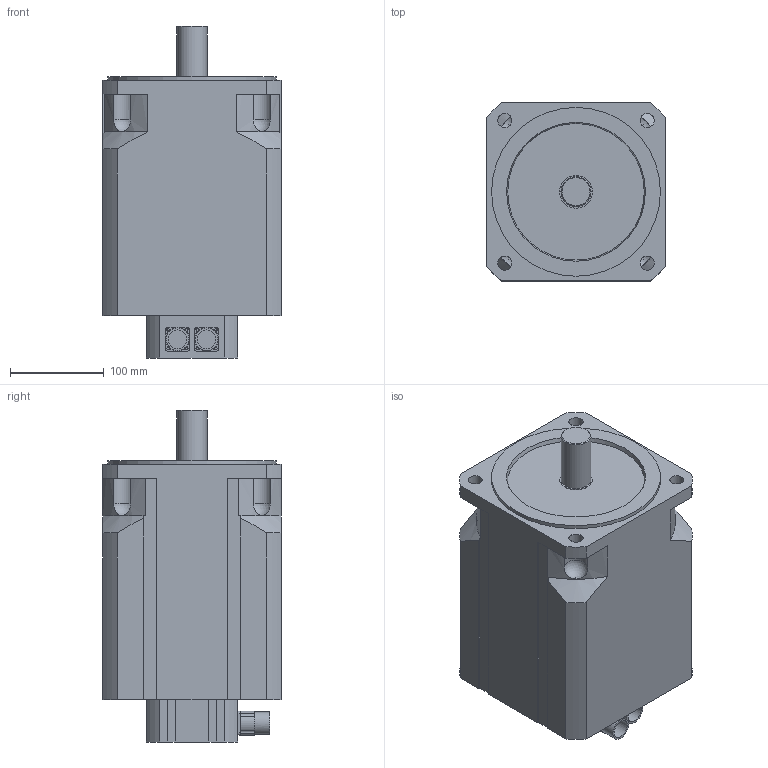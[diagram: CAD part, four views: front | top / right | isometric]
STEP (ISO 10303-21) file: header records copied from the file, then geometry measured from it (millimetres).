
FILE_DESCRIPTION(/* description */ (''),/* implementation_level */ '2;1');
FILE_NAME(/* name */ 'MR7465-Ux-Nxxx-G01-A0D-MS.stp',/* time_stamp */ '2010-01-11T15:56:04+01:00',/* author */ (''),/* organization */ ('ESR Pollmeier GmbH'),/* preprocessor_version */ 'ST-DEVELOPER v8',/* originating_system */ 'UNIGRAPHICS SOLUTIONS - UNIGRAPHICS 18.0',/* authorisation */ '');
FILE_SCHEMA (('AUTOMOTIVE_DESIGN { 1 2 10303 214 0 1 1 1 }'));
Length unit declared in the file: millimetre
Products named in the file (3): Resolverstecker_0; Motorstecker_0; MR7465_Ux_Nxxx_G01_A0D_MS
Assembly tree (2 placements, depth 2):
  MR7465_Ux_Nxxx_G01_A0D_MS
    Motorstecker_0
    Resolverstecker_0
Bounding box: 190 x 190 x 354 mm (x, y, z)
Volume: 9216326.1 mm3; surface area: 299540.4 mm2
Topology: 3 solids, 3 shells, 160 faces, 437 edges, 284 vertices
Faces by surface type: plane 87, cylinder 63, cone 6, sphere 4
Full cylindrical faces by diameter (mm): 2.7 x8, 15 x4, 20 x2, 24 x2, 32 x1, 35 x1, 180 x1
Entity records: 5039 total; most frequent: CARTESIAN_POINT 933, DIRECTION 876, ORIENTED_EDGE 798, EDGE_CURVE 399, AXIS2_PLACEMENT_3D 334, VERTEX_POINT 271, EDGE_LOOP 214, LINE 208
